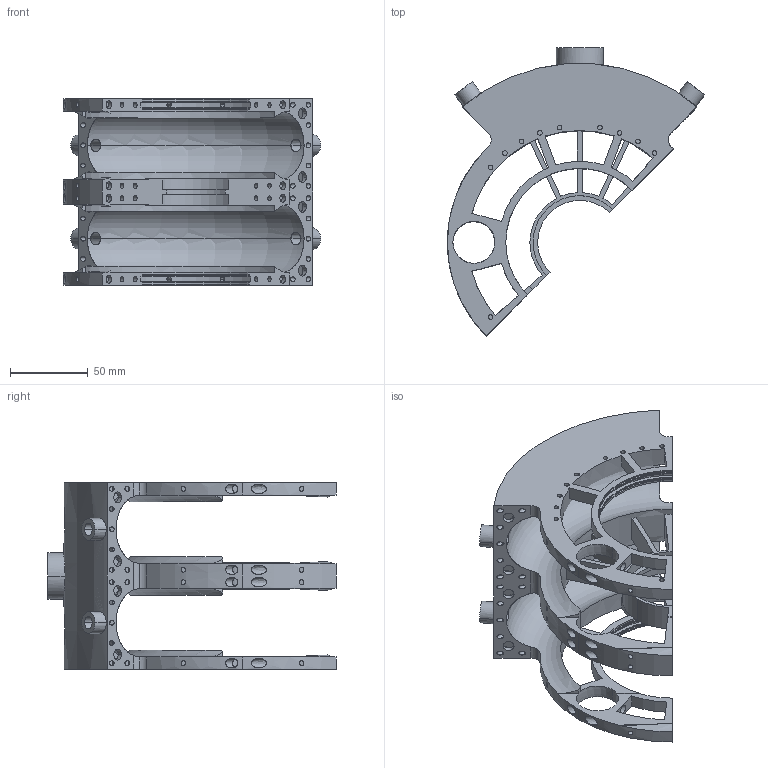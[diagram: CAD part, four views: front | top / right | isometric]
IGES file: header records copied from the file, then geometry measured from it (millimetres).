
Start section: IMSI TurboCAD v14.0
Global section: author: NULL; organization: NULL; date: 20240108.100932; units: millimetre
Bounding box: 165.22 x 185.1 x 120 mm (x, y, z)
Surface area: 207365.7 mm2 (no closed solid volume)
Topology: 0 solids, 0 shells, 724 faces, 4452 edges, 4444 vertices
Faces by surface type: revolution 477, extrusion 247
